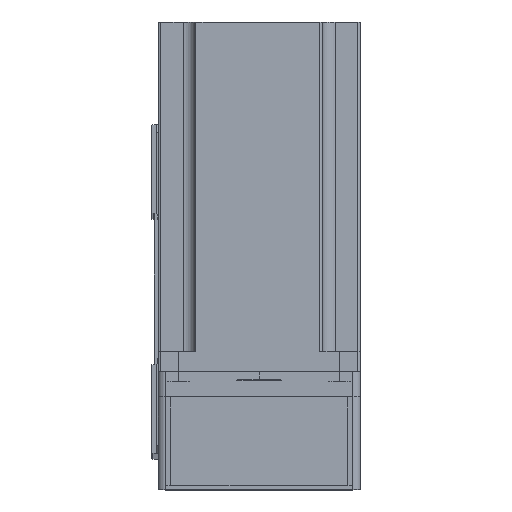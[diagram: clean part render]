
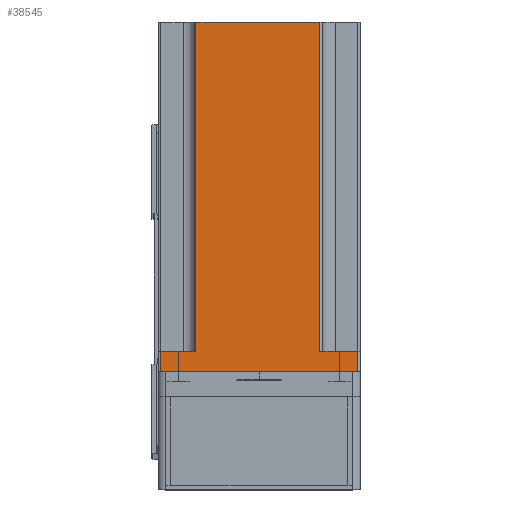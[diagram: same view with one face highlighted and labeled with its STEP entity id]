
A CAD part, top view. The second image highlights one B-rep face of the part: STEP entity #38545.
In plain terms, the highlighted planar face has unit normal (0, 0, 1) as drawn and (-1, 0, 0) by its records, which use the part's own axes.
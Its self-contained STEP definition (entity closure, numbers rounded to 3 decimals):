
#264 = DIRECTION ( 'NONE',  ( 0., 0., -1. ) ) ;
#344 = DIRECTION ( 'NONE',  ( 1., 0., 0. ) ) ;
#379 = CARTESIAN_POINT ( 'NONE',  ( -40., -40., 138.3 ) ) ;
#550 = VECTOR ( 'NONE', #10642, 1000. ) ;
#1112 = PLANE ( 'NONE',  #48649 ) ;
#2703 = DIRECTION ( 'NONE',  ( 0., 0., 1. ) ) ;
#2861 = FACE_OUTER_BOUND ( 'NONE', #42716, .T. ) ;
#3340 = EDGE_CURVE ( 'NONE', #37870, #16123, #19493, .T. ) ;
#4675 = VERTEX_POINT ( 'NONE', #30189 ) ;
#5575 = ORIENTED_EDGE ( 'NONE', *, *, #3340, .T. ) ;
#6207 = LINE ( 'NONE', #48240, #15882 ) ;
#7486 = ORIENTED_EDGE ( 'NONE', *, *, #21470, .T. ) ;
#7912 = EDGE_CURVE ( 'NONE', #37870, #32400, #11591, .T. ) ;
#8484 = VECTOR ( 'NONE', #51691, 1000. ) ;
#9090 = EDGE_CURVE ( 'NONE', #30200, #32400, #6207, .T. ) ;
#9516 = ORIENTED_EDGE ( 'NONE', *, *, #13569, .F. ) ;
#9741 = CARTESIAN_POINT ( 'NONE',  ( -40., 39., 8. ) ) ;
#10642 = DIRECTION ( 'NONE',  ( 0., -1., 0. ) ) ;
#11591 = LINE ( 'NONE', #27247, #550 ) ;
#12189 = CARTESIAN_POINT ( 'NONE',  ( -40., 25., 8. ) ) ;
#13569 = EDGE_CURVE ( 'NONE', #44328, #19825, #44135, .T. ) ;
#14980 = EDGE_CURVE ( 'NONE', #19825, #16123, #53388, .T. ) ;
#15882 = VECTOR ( 'NONE', #2703, 1000. ) ;
#16123 = VERTEX_POINT ( 'NONE', #30562 ) ;
#16308 = VECTOR ( 'NONE', #27478, 1000. ) ;
#17976 = CARTESIAN_POINT ( 'NONE',  ( -40., -39., 0. ) ) ;
#19493 = LINE ( 'NONE', #51588, #8484 ) ;
#19567 = ORIENTED_EDGE ( 'NONE', *, *, #38953, .T. ) ;
#19825 = VERTEX_POINT ( 'NONE', #28324 ) ;
#20534 = EDGE_CURVE ( 'NONE', #44328, #37423, #38270, .T. ) ;
#20580 = ORIENTED_EDGE ( 'NONE', *, *, #14980, .F. ) ;
#21470 = EDGE_CURVE ( 'NONE', #4675, #30200, #27506, .T. ) ;
#22860 = CARTESIAN_POINT ( 'NONE',  ( -40., -39., 8. ) ) ;
#22884 = VECTOR ( 'NONE', #49689, 1000. ) ;
#25004 = CARTESIAN_POINT ( 'NONE',  ( -40., -40., 138.3 ) ) ;
#26140 = DIRECTION ( 'NONE',  ( 0., -1., 0. ) ) ;
#27247 = CARTESIAN_POINT ( 'NONE',  ( -40., -40., 8. ) ) ;
#27478 = DIRECTION ( 'NONE',  ( 0., -1., 0. ) ) ;
#27506 = LINE ( 'NONE', #28779, #16308 ) ;
#28324 = CARTESIAN_POINT ( 'NONE',  ( -40., 25., 138.3 ) ) ;
#28779 = CARTESIAN_POINT ( 'NONE',  ( -40., -40., 0. ) ) ;
#30189 = CARTESIAN_POINT ( 'NONE',  ( -40., 39., 0. ) ) ;
#30200 = VERTEX_POINT ( 'NONE', #17976 ) ;
#30562 = CARTESIAN_POINT ( 'NONE',  ( -40., -24., 138.3 ) ) ;
#32400 = VERTEX_POINT ( 'NONE', #22860 ) ;
#32904 = VECTOR ( 'NONE', #38619, 1000. ) ;
#34141 = LINE ( 'NONE', #50037, #22884 ) ;
#35781 = ORIENTED_EDGE ( 'NONE', *, *, #7912, .F. ) ;
#36334 = CARTESIAN_POINT ( 'NONE',  ( -40., 25., 8. ) ) ;
#36993 = VECTOR ( 'NONE', #26140, 1000. ) ;
#37423 = VERTEX_POINT ( 'NONE', #9741 ) ;
#37479 = CARTESIAN_POINT ( 'NONE',  ( -40., -24., 8. ) ) ;
#37870 = VERTEX_POINT ( 'NONE', #37479 ) ;
#38096 = ORIENTED_EDGE ( 'NONE', *, *, #9090, .T. ) ;
#38270 = LINE ( 'NONE', #44716, #46883 ) ;
#38545 = ADVANCED_FACE ( 'NONE', ( #2861 ), #1112, .F. ) ;
#38619 = DIRECTION ( 'NONE',  ( 0., 0., 1. ) ) ;
#38953 = EDGE_CURVE ( 'NONE', #37423, #4675, #34141, .T. ) ;
#42716 = EDGE_LOOP ( 'NONE', ( #35781, #5575, #20580, #9516, #53515, #19567, #7486, #38096 ) ) ;
#44135 = LINE ( 'NONE', #36334, #32904 ) ;
#44328 = VERTEX_POINT ( 'NONE', #12189 ) ;
#44349 = DIRECTION ( 'NONE',  ( 0., 1., 0. ) ) ;
#44716 = CARTESIAN_POINT ( 'NONE',  ( -40., 40., 8. ) ) ;
#46883 = VECTOR ( 'NONE', #44349, 1000. ) ;
#48240 = CARTESIAN_POINT ( 'NONE',  ( -40., -39., 138.3 ) ) ;
#48649 = AXIS2_PLACEMENT_3D ( 'NONE', #379, #344, #264 ) ;
#49689 = DIRECTION ( 'NONE',  ( 0., 0., -1. ) ) ;
#50037 = CARTESIAN_POINT ( 'NONE',  ( -40., 39., 138.3 ) ) ;
#51588 = CARTESIAN_POINT ( 'NONE',  ( -40., -24., 138.3 ) ) ;
#51691 = DIRECTION ( 'NONE',  ( 0., 0., 1. ) ) ;
#53388 = LINE ( 'NONE', #25004, #36993 ) ;
#53515 = ORIENTED_EDGE ( 'NONE', *, *, #20534, .T. ) ;
